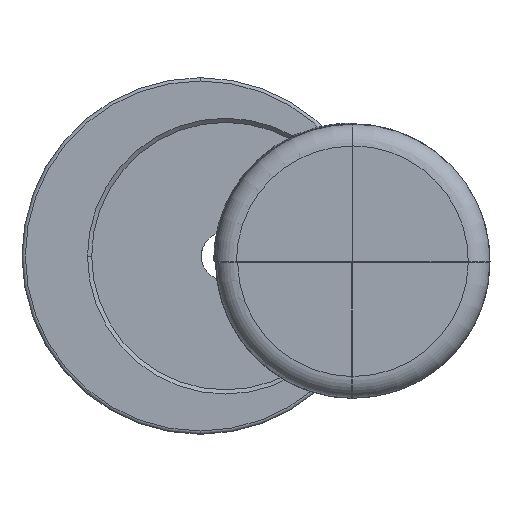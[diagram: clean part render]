
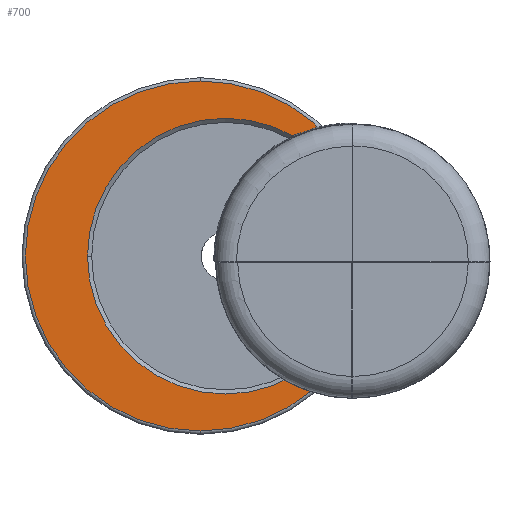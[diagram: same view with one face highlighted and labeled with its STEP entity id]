
A CAD part, front view. The second image highlights one B-rep face of the part: STEP entity #700.
In plain terms, the highlighted planar face has unit normal (0, -1, 0) as drawn and (-1, 0, 0) by its records, which use the part's own axes.
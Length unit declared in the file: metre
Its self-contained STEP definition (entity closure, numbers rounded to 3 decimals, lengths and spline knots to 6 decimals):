
#700=ADVANCED_FACE('',(#906,#907),#908,.T.);
#906=FACE_BOUND('',#2057,.T.);
#907=FACE_OUTER_BOUND('',#2058,.T.);
#908=PLANE('',#2059);
#2057=EDGE_LOOP('',(#3075,#3076));
#2058=EDGE_LOOP('',(#3077,#3078,#3079));
#2059=AXIS2_PLACEMENT_3D('',#3080,#3081,#3082);
#3075=ORIENTED_EDGE('',*,*,#4328,.F.);
#3076=ORIENTED_EDGE('',*,*,#4379,.F.);
#3077=ORIENTED_EDGE('',*,*,#4380,.F.);
#3078=ORIENTED_EDGE('',*,*,#4381,.F.);
#3079=ORIENTED_EDGE('',*,*,#4335,.F.);
#3080=CARTESIAN_POINT('',(-0.183,0.0,0.0));
#3081=DIRECTION('',(-1.0,0.0,0.0));
#3082=DIRECTION('',(0.0,0.0,1.0));
#4328=EDGE_CURVE('',#4774,#4776,#4777,.T.);
#4335=EDGE_CURVE('',#4787,#4781,#4789,.T.);
#4379=EDGE_CURVE('',#4776,#4774,#4862,.T.);
#4380=EDGE_CURVE('',#4863,#4787,#4864,.T.);
#4381=EDGE_CURVE('',#4781,#4863,#4865,.T.);
#4774=VERTEX_POINT('',#5552);
#4776=VERTEX_POINT('',#5555);
#4777=CIRCLE('',#5556,0.0166);
#4781=VERTEX_POINT('',#5561);
#4787=VERTEX_POINT('',#5567);
#4789=CIRCLE('',#5569,0.021065);
#4862=CIRCLE('',#5857,0.0166);
#4863=VERTEX_POINT('',#5858);
#4864=CIRCLE('',#5859,0.021065);
#4865=CIRCLE('',#5860,0.021065);
#5552=CARTESIAN_POINT('',(-0.183,0.01358,-0.000014));
#5555=CARTESIAN_POINT('',(-0.183,-0.01962,-0.000014));
#5556=AXIS2_PLACEMENT_3D('',#7346,#7347,#7348);
#5561=CARTESIAN_POINT('',(-0.183,0.,0.021065));
#5567=CARTESIAN_POINT('',(-0.183,0.,-0.021065));
#5569=AXIS2_PLACEMENT_3D('',#7365,#7366,#7367);
#5857=AXIS2_PLACEMENT_3D('',#7446,#7447,#7448);
#5858=CARTESIAN_POINT('',(-0.183,-0.021065,0.0));
#5859=AXIS2_PLACEMENT_3D('',#7449,#7450,#7451);
#5860=AXIS2_PLACEMENT_3D('',#7452,#7453,#7454);
#7346=CARTESIAN_POINT('',(-0.183,-0.00302,-0.000014));
#7347=DIRECTION('',(-1.0,0.0,0.0));
#7348=DIRECTION('',(0.0,1.0,0.0));
#7365=CARTESIAN_POINT('',(-0.183,0.0,0.0));
#7366=DIRECTION('',(1.0,0.0,0.0));
#7367=DIRECTION('',(0.0,-1.0,0.0));
#7446=CARTESIAN_POINT('',(-0.183,-0.00302,-0.000014));
#7447=DIRECTION('',(-1.0,0.0,0.0));
#7448=DIRECTION('',(0.0,1.0,0.0));
#7449=CARTESIAN_POINT('',(-0.183,0.0,0.0));
#7450=DIRECTION('',(1.0,0.0,0.0));
#7451=DIRECTION('',(0.0,-1.0,0.0));
#7452=CARTESIAN_POINT('',(-0.183,0.0,0.0));
#7453=DIRECTION('',(1.0,0.0,0.0));
#7454=DIRECTION('',(0.0,-1.0,0.0));
